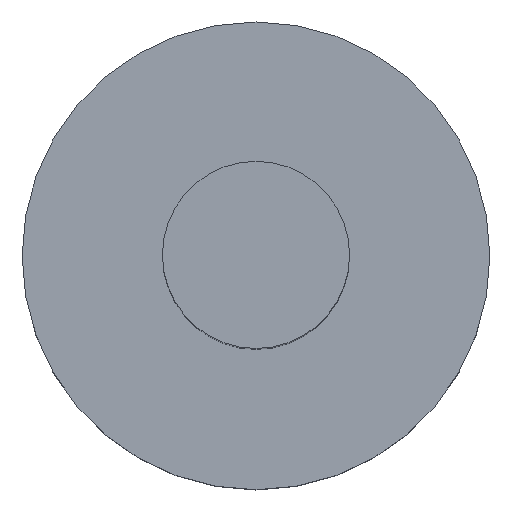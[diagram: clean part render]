
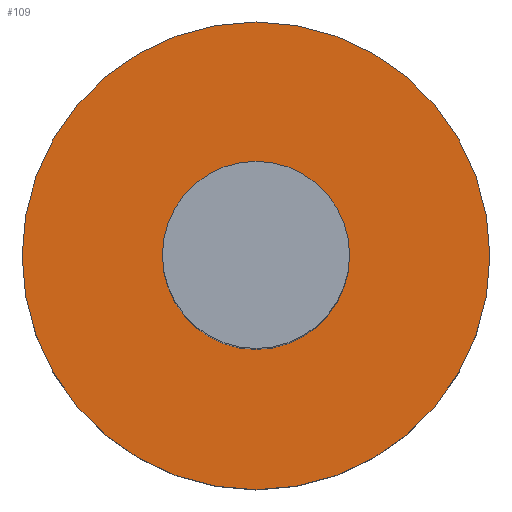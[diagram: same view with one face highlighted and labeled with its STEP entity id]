
A CAD part, top view. The second image highlights one B-rep face of the part: STEP entity #109.
In plain terms, the highlighted planar face has unit normal (0, 0, 1).
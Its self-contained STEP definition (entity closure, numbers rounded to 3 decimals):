
#24 = VERTEX_POINT('',#25);
#25 = CARTESIAN_POINT('',(5.,0.,3.));
#32 = CYLINDRICAL_SURFACE('',#33,5.);
#33 = AXIS2_PLACEMENT_3D('',#34,#35,#36);
#34 = CARTESIAN_POINT('',(0.,0.,0.));
#35 = DIRECTION('',(-0.,-0.,-1.));
#36 = DIRECTION('',(1.,0.,0.));
#51 = EDGE_CURVE('',#24,#24,#52,.T.);
#52 = SURFACE_CURVE('',#53,(#58,#65),.PCURVE_S1.);
#53 = CIRCLE('',#54,5.);
#54 = AXIS2_PLACEMENT_3D('',#55,#56,#57);
#55 = CARTESIAN_POINT('',(0.,0.,3.));
#56 = DIRECTION('',(0.,0.,1.));
#57 = DIRECTION('',(1.,0.,0.));
#58 = PCURVE('',#32,#59);
#59 = DEFINITIONAL_REPRESENTATION('',(#60),#64);
#60 = LINE('',#61,#62);
#61 = CARTESIAN_POINT('',(-0.,-3.));
#62 = VECTOR('',#63,1.);
#63 = DIRECTION('',(-1.,0.));
#64 = ( GEOMETRIC_REPRESENTATION_CONTEXT(2) 
PARAMETRIC_REPRESENTATION_CONTEXT() REPRESENTATION_CONTEXT('2D SPACE',''
  ) );
#65 = PCURVE('',#66,#71);
#66 = PLANE('',#67);
#67 = AXIS2_PLACEMENT_3D('',#68,#69,#70);
#68 = CARTESIAN_POINT('',(0.,0.,3.));
#69 = DIRECTION('',(0.,0.,1.));
#70 = DIRECTION('',(1.,0.,-0.));
#71 = DEFINITIONAL_REPRESENTATION('',(#72),#76);
#72 = CIRCLE('',#73,5.);
#73 = AXIS2_PLACEMENT_2D('',#74,#75);
#74 = CARTESIAN_POINT('',(0.,0.));
#75 = DIRECTION('',(1.,0.));
#76 = ( GEOMETRIC_REPRESENTATION_CONTEXT(2) 
PARAMETRIC_REPRESENTATION_CONTEXT() REPRESENTATION_CONTEXT('2D SPACE',''
  ) );
#109 = ADVANCED_FACE('',(#110,#113),#66,.T.);
#110 = FACE_BOUND('',#111,.T.);
#111 = EDGE_LOOP('',(#112));
#112 = ORIENTED_EDGE('',*,*,#51,.T.);
#113 = FACE_BOUND('',#114,.T.);
#114 = EDGE_LOOP('',(#115));
#115 = ORIENTED_EDGE('',*,*,#116,.F.);
#116 = EDGE_CURVE('',#117,#117,#119,.T.);
#117 = VERTEX_POINT('',#118);
#118 = CARTESIAN_POINT('',(2.,0.,3.));
#119 = SURFACE_CURVE('',#120,(#125,#132),.PCURVE_S1.);
#120 = CIRCLE('',#121,2.);
#121 = AXIS2_PLACEMENT_3D('',#122,#123,#124);
#122 = CARTESIAN_POINT('',(0.,0.,3.));
#123 = DIRECTION('',(0.,0.,1.));
#124 = DIRECTION('',(1.,0.,0.));
#125 = PCURVE('',#66,#126);
#126 = DEFINITIONAL_REPRESENTATION('',(#127),#131);
#127 = CIRCLE('',#128,2.);
#128 = AXIS2_PLACEMENT_2D('',#129,#130);
#129 = CARTESIAN_POINT('',(0.,0.));
#130 = DIRECTION('',(1.,0.));
#131 = ( GEOMETRIC_REPRESENTATION_CONTEXT(2) 
PARAMETRIC_REPRESENTATION_CONTEXT() REPRESENTATION_CONTEXT('2D SPACE',''
  ) );
#132 = PCURVE('',#133,#138);
#133 = CYLINDRICAL_SURFACE('',#134,2.);
#134 = AXIS2_PLACEMENT_3D('',#135,#136,#137);
#135 = CARTESIAN_POINT('',(0.,0.,3.));
#136 = DIRECTION('',(-0.,-0.,-1.));
#137 = DIRECTION('',(1.,0.,0.));
#138 = DEFINITIONAL_REPRESENTATION('',(#139),#143);
#139 = LINE('',#140,#141);
#140 = CARTESIAN_POINT('',(-0.,0.));
#141 = VECTOR('',#142,1.);
#142 = DIRECTION('',(-1.,0.));
#143 = ( GEOMETRIC_REPRESENTATION_CONTEXT(2) 
PARAMETRIC_REPRESENTATION_CONTEXT() REPRESENTATION_CONTEXT('2D SPACE',''
  ) );
